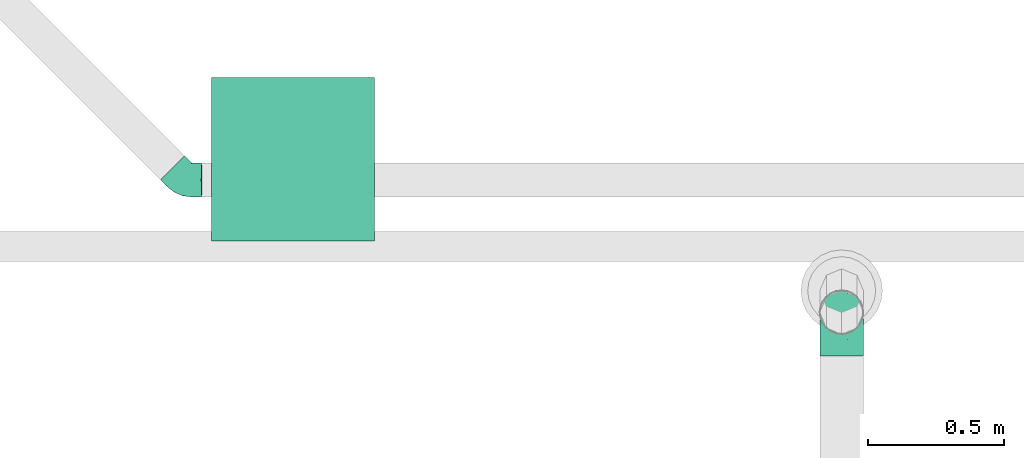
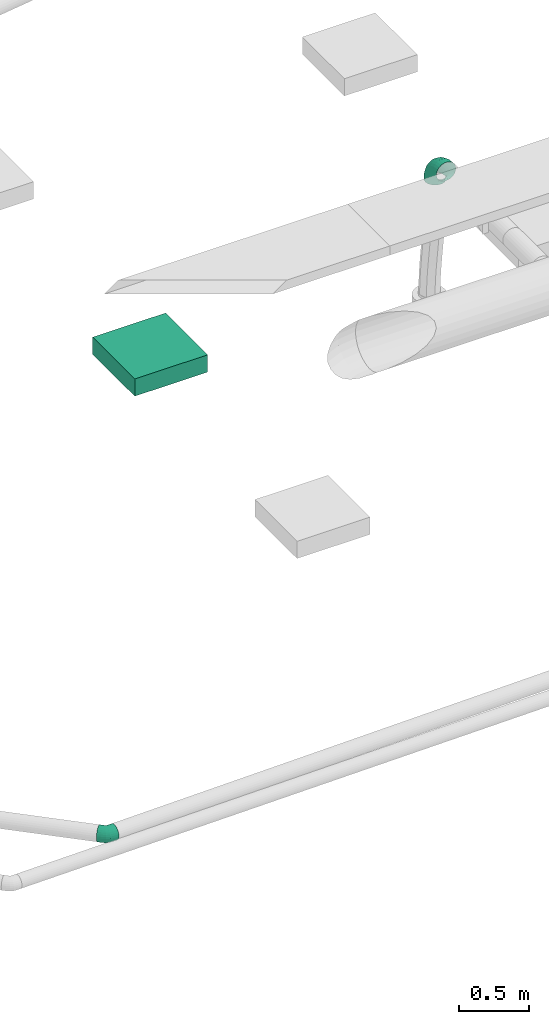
# One storey, part 149 of 374: 2 flow fittings, 1 distribution element.
"""IFC2X3 building model written with IfcOpenShell, lengths in metres."""

from ifc_helpers import new_model, si_unit, direction, frame, frame_2d, origin, place, context, subcontext, project, spatial, rectangle, extrude, open_shell, surface_model, source, transform, mapped, element, save


model = new_model("IFC2X3")

# Units and contexts
model_context = context("Model", 3, precision=1e-05, world=origin(), true_north=direction((-0.4480736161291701, 0.8939966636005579)))
body_context = subcontext(model_context, "Body", "Model", "MODEL_VIEW")
ifc_project = project(units=[si_unit("LENGTHUNIT", "METRE"), si_unit("AREAUNIT", "SQUARE_METRE"), si_unit("VOLUMEUNIT", "CUBIC_METRE"), si_unit("PLANEANGLEUNIT", "RADIAN"), si_unit("THERMODYNAMICTEMPERATUREUNIT", "KELVIN"), si_unit("MASSUNIT", "GRAM", prefix="KILO"), si_unit("TIMEUNIT", "SECOND")], contexts=[model_context])

# Site, building, storey
site_placement = place(None, origin())
site = spatial("IfcSite", under=ifc_project, at=site_placement, Name="Site 1", CompositionType="ELEMENT")
building_placement = place(site_placement, origin())
building = spatial("IfcBuilding", under=site, at=building_placement, Name="Undefined", CompositionType="ELEMENT")
storey_placement = place(building_placement, origin())
storey = spatial("IfcBuildingStorey", under=building, at=storey_placement, Name="Rez de chauss\x8ee", CompositionType="ELEMENT", Elevation=0.0)

# Flow fittings
shared_shape_1 = source(origin(), body_context, "Body", "SurfaceModel", [
    surface_model("IfcFaceBasedSurfaceModel", [(0.06265257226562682, -8.8817842e-16, 0.0), (0.062296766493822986, 0.02088115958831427, -7.105427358e-15), (0.0003558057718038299, 0.020881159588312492, 7.105427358e-15), (0.0, 0.0, 0.0), (-0.059474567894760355, 0.022956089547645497, -0.015896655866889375), (-0.06051773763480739, 0.002098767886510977, -0.01607928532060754), (-0.11311701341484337, 0.02696454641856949, -0.04660663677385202), (-0.11477645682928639, 0.006153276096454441, -0.04714207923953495), (-0.15691588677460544, 0.0326333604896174, -0.09003710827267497), (-0.15907851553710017, 0.01188721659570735, -0.09107150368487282), (-0.18788636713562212, 0.03957621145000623, -0.14322835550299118), (-0.1904048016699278, 0.01890983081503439, -0.14487384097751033), (-0.2039178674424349, 0.04731995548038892, -0.20255548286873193), (-0.20662048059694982, 0.026742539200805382, -0.20488255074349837), (0.061253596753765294, 0.04103889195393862, -0.0053597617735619), (0.0013989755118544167, 0.04103889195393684, -0.005359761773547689), (-0.05641614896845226, 0.04304393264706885, -0.02072097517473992), (-0.10825177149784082, 0.04691737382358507, -0.050396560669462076), (-0.15057538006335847, 0.05239524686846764, -0.09236417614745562), (-0.18050269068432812, 0.05910424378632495, -0.14376379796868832), (-0.19599420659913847, 0.06658715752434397, -0.20109262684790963), (0.05959415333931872, 0.05909948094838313, -0.01571402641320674), (0.003058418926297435, 0.05909948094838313, -0.01571402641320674), (-0.05155090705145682, 0.06099334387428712, -0.030223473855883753), (-0.10051228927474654, 0.06465200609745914, -0.058253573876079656), (-0.1404890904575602, 0.0698261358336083, -0.09789412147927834), (-0.16875695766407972, 0.0761631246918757, -0.14644367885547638), (-0.18338948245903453, 0.08323111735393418, -0.2005936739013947), (0.057431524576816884, 0.07383212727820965, -0.030357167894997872), (0.005221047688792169, 0.07383212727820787, -0.03035716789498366), (-0.0452104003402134, 0.07558110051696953, -0.04375657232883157), (-0.09042599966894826, 0.07895985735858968, -0.06964223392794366), (-0.12734438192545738, 0.08373814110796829, -0.10625008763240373), (-0.15344962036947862, 0.08959031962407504, -0.15108536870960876), (-0.16696268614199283, 0.0961175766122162, -0.20109262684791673), (0.054913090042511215, 0.0842328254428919, -0.048291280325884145), (0.007739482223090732, 0.08423282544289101, -0.04829128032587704), (-0.037826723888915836, 0.08581307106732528, -0.06039801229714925), (-0.07868026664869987, 0.08886587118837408, -0.08378642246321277), (-0.11203704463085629, 0.09318318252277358, -0.11686262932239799), (-0.13562384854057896, 0.09847078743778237, -0.1573725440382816), (-0.14783327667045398, 0.10436834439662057, -0.20255548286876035), (0.05221047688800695, 0.0895927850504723, -0.06829418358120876), (0.010442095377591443, 0.08959278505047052, -0.06829418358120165), (-0.029903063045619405, 0.09099196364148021, -0.07901370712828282), (-0.06607554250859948, 0.09369496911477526, -0.0997222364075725), (-0.0956102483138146, 0.0975175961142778, -0.12900851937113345), (-0.11649443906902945, 0.10219933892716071, -0.16487674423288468), (-0.12730489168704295, 0.1074211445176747, -0.2048825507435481), (0.04950786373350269, 0.08954673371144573, -0.08900271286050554), (0.013144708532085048, 0.08954673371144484, -0.08900271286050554), (-0.02197940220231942, 0.09076484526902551, -0.09833502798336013), (-0.05347081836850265, 0.09311805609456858, -0.11636367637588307), (-0.0791834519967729, 0.09644599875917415, -0.14186003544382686), (-0.09736502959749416, 0.10052187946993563, -0.17308657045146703), (-0.10677650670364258, 0.1050679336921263, -0.20791524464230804), (0.04698942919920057, 0.08409780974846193, -0.10900561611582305), (0.015663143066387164, 0.08409780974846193, -0.10900561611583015), (-0.014595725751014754, 0.08514719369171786, -0.11704525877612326), (-0.0417250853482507, 0.0871744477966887, -0.13257665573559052), (-0.06387611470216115, 0.09004141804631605, -0.15454136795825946), (-0.07953925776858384, 0.09355272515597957, -0.1814425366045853), (-0.08764709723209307, 0.09746907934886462, -0.21144689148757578), (0.04482680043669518, 0.0736173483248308, -0.12693972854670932), (0.017825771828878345, 0.0736173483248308, -0.12693972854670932), (-0.008255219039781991, 0.07452184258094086, -0.13386932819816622), (-0.03163879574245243, 0.0762691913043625, -0.14725628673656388), (-0.050731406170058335, 0.07874031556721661, -0.1661883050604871), (-0.06423192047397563, 0.08176681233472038, -0.18937519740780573), (-0.07122030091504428, 0.08514243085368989, -0.21523681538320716), (0.04316735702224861, 0.058819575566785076, -0.14158287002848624), (0.019485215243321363, 0.058819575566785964, -0.14158287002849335), (-0.0033899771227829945, 0.05961289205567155, -0.14766070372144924), (-0.02389931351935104, 0.06114546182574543, -0.15940217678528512), (-0.04064511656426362, 0.06331284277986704, -0.17600712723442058), (-0.052486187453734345, 0.06596733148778, -0.19634395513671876), (-0.05861557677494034, 0.06892802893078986, -0.2190267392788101), (0.04212418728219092, 0.040712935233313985, -0.15193713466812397), (0.020528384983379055, 0.040712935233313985, -0.15193713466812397), (-0.0003315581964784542, 0.041436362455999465, -0.15747952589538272), (-0.019034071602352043, 0.04283391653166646, -0.16818660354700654), (-0.03430460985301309, 0.04481035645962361, -0.1833286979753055), (-0.04510251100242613, 0.047230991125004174, -0.20187390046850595), (-0.05069191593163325, 0.04993085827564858, -0.22255838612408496), (0.04176838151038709, 0.02053136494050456, -0.15729689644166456), (0.020884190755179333, 0.02053136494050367, -0.15729689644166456), (0.0007116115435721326, 0.021230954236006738, -0.16265665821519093), (-0.017374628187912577, 0.022582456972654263, -0.17301092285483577), (-0.03214198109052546, 0.024493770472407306, -0.1876540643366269), (-0.042584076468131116, 0.026834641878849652, -0.20558817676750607), (-0.04798930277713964, 0.02944554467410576, -0.22559108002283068), (0.04212418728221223, -0.000349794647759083, -0.15729689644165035), (0.020528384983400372, -0.000349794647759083, -0.15729689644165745), (-0.0003315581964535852, 0.00037363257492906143, -0.1628392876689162), (-0.019034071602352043, 0.0017711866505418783, -0.17354636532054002), (-0.03430460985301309, 0.0037476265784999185, -0.18868845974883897), (-0.04510251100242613, 0.00616826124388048, -0.20723366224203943), (-0.05069191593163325, 0.008868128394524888, -0.22791814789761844), (0.04316735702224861, -0.020507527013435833, -0.15193713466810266), (0.019485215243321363, -0.020507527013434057, -0.15193713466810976), (-0.0033899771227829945, -0.019714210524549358, -0.15801496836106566), (-0.02389931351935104, -0.01818164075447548, -0.16975644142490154), (-0.04064511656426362, -0.01601425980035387, -0.186361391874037), (-0.052486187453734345, -0.013359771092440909, -0.20669821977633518), (-0.05861557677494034, -0.010399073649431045, -0.22938100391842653), (0.04482680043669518, -0.03856811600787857, -0.1415828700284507), (0.017825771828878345, -0.03856811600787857, -0.1415828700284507), (-0.008255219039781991, -0.03766362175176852, -0.1485124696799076), (-0.03163879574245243, -0.03591627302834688, -0.16189942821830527), (-0.050731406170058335, -0.03344514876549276, -0.1808314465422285), (-0.06423192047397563, -0.030418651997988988, -0.20401833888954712), (-0.07122030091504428, -0.027043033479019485, -0.22987995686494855), (0.04698942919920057, -0.05330076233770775, -0.12693972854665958), (0.015663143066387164, -0.05330076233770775, -0.12693972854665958), (-0.014595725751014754, -0.05225137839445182, -0.1349793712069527), (-0.0417250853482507, -0.05022412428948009, -0.15051076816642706), (-0.06387611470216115, -0.047357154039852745, -0.172475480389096), (-0.07953925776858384, -0.043845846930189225, -0.19937664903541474), (-0.08764709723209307, -0.03992949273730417, -0.2293810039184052), (0.04950786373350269, -0.06370146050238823, -0.10900561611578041), (0.013144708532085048, -0.06370146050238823, -0.10900561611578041), (-0.02197940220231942, -0.06248334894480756, -0.11833793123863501), (-0.05347081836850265, -0.06013013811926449, -0.13636657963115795), (-0.0791834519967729, -0.05680219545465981, -0.16186293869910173), (-0.09736502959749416, -0.05272631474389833, -0.1930894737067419), (-0.10677650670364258, -0.04818026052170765, -0.2279181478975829), (0.05221047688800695, -0.06906142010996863, -0.08900271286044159), (0.010442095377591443, -0.06906142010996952, -0.08900271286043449), (-0.029903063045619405, -0.06766224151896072, -0.09972223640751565), (-0.06607554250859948, -0.06495923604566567, -0.12043076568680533), (-0.0956102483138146, -0.06113660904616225, -0.14971704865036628), (-0.11649443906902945, -0.05645486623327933, -0.1855852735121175), (-0.12730489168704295, -0.05123306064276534, -0.22559108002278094), (0.054913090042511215, -0.06901536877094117, -0.06829418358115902), (0.007739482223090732, -0.06901536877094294, -0.06829418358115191), (-0.037826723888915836, -0.06743512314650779, -0.08040091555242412), (-0.07868026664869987, -0.06438232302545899, -0.10378932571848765), (-0.11203704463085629, -0.06006501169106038, -0.13686553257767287), (-0.13562384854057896, -0.0547774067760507, -0.17737544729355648), (-0.14783327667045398, -0.04887984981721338, -0.22255838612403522), (0.057431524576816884, -0.06356644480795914, -0.0482912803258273), (0.005221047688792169, -0.06356644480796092, -0.04829128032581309), (-0.0452104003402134, -0.061817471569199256, -0.0616906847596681), (-0.09042599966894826, -0.05843871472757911, -0.0875763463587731), (-0.12734438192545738, -0.05366043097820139, -0.12418420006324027), (-0.15344962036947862, -0.04780825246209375, -0.1690194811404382), (-0.16696268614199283, -0.041280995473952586, -0.21902673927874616), (0.05959415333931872, -0.05308598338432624, -0.030357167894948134), (0.003058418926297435, -0.05308598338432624, -0.030357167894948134), (-0.05155090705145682, -0.05119212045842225, -0.04486661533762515), (-0.10051228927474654, -0.04753345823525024, -0.07289671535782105), (-0.1404890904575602, -0.04235932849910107, -0.11253726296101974), (-0.16875695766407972, -0.03602233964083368, -0.16108682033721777), (-0.18338948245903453, -0.02895434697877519, -0.2152368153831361), (0.061253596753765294, -0.03828821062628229, -0.015714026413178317), (0.0013989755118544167, -0.03828821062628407, -0.015714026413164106), (-0.05641614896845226, -0.03628316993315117, -0.031075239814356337), (-0.10825177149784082, -0.03240972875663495, -0.06075082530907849), (-0.15057538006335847, -0.026931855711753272, -0.10271844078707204), (-0.18050269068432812, -0.02022285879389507, -0.15411806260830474), (-0.19599420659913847, -0.012739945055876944, -0.21144689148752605), (0.062296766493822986, -0.020181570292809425, -0.005359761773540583), (0.0003558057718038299, -0.020181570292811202, -0.0053597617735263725), (-0.059474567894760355, -0.018106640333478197, -0.021256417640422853), (-0.11311701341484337, -0.014098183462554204, -0.051966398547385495), (-0.15691588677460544, -0.00842936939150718, -0.09539687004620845), (-0.18788636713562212, -0.0014865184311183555, -0.14858811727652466), (-0.2039178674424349, 0.006257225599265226, -0.2079152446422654)], [open_shell([[[0, 1, 2, 3]], [[3, 2, 4, 5]], [[5, 4, 6, 7]], [[7, 6, 8, 9]], [[9, 8, 10, 11]], [[11, 10, 12, 13]], [[1, 14, 15, 2]], [[2, 15, 16, 4]], [[4, 16, 17, 6]], [[6, 17, 18, 8]], [[8, 18, 19, 10]], [[10, 19, 20, 12]], [[14, 21, 22, 15]], [[15, 22, 23, 16]], [[16, 23, 24, 17]], [[17, 24, 25, 18]], [[18, 25, 26, 19]], [[19, 26, 27, 20]], [[21, 28, 29, 22]], [[22, 29, 30, 23]], [[23, 30, 31, 24]], [[24, 31, 32, 25]], [[25, 32, 33, 26]], [[26, 33, 34, 27]], [[28, 35, 36, 29]], [[29, 36, 37, 30]], [[30, 37, 38, 31]], [[31, 38, 39, 32]], [[32, 39, 40, 33]], [[33, 40, 41, 34]], [[35, 42, 43, 36]], [[36, 43, 44, 37]], [[37, 44, 45, 38]], [[38, 45, 46, 39]], [[39, 46, 47, 40]], [[40, 47, 48, 41]], [[42, 49, 50, 43]], [[43, 50, 51, 44]], [[44, 51, 52, 45]], [[45, 52, 53, 46]], [[46, 53, 54, 47]], [[47, 54, 55, 48]], [[49, 56, 57, 50]], [[50, 57, 58, 51]], [[51, 58, 59, 52]], [[52, 59, 60, 53]], [[53, 60, 61, 54]], [[54, 61, 62, 55]], [[56, 63, 64, 57]], [[57, 64, 65, 58]], [[58, 65, 66, 59]], [[59, 66, 67, 60]], [[60, 67, 68, 61]], [[61, 68, 69, 62]], [[63, 70, 71, 64]], [[64, 71, 72, 65]], [[65, 72, 73, 66]], [[66, 73, 74, 67]], [[67, 74, 75, 68]], [[68, 75, 76, 69]], [[70, 77, 78, 71]], [[71, 78, 79, 72]], [[72, 79, 80, 73]], [[73, 80, 81, 74]], [[74, 81, 82, 75]], [[75, 82, 83, 76]], [[77, 84, 85, 78]], [[78, 85, 86, 79]], [[79, 86, 87, 80]], [[80, 87, 88, 81]], [[81, 88, 89, 82]], [[82, 89, 90, 83]], [[84, 91, 92, 85]], [[85, 92, 93, 86]], [[86, 93, 94, 87]], [[87, 94, 95, 88]], [[88, 95, 96, 89]], [[89, 96, 97, 90]], [[91, 98, 99, 92]], [[92, 99, 100, 93]], [[93, 100, 101, 94]], [[94, 101, 102, 95]], [[95, 102, 103, 96]], [[96, 103, 104, 97]], [[98, 105, 106, 99]], [[99, 106, 107, 100]], [[100, 107, 108, 101]], [[101, 108, 109, 102]], [[102, 109, 110, 103]], [[103, 110, 111, 104]], [[105, 112, 113, 106]], [[106, 113, 114, 107]], [[107, 114, 115, 108]], [[108, 115, 116, 109]], [[109, 116, 117, 110]], [[110, 117, 118, 111]], [[112, 119, 120, 113]], [[113, 120, 121, 114]], [[114, 121, 122, 115]], [[115, 122, 123, 116]], [[116, 123, 124, 117]], [[117, 124, 125, 118]], [[119, 126, 127, 120]], [[120, 127, 128, 121]], [[121, 128, 129, 122]], [[122, 129, 130, 123]], [[123, 130, 131, 124]], [[124, 131, 132, 125]], [[126, 133, 134, 127]], [[127, 134, 135, 128]], [[128, 135, 136, 129]], [[129, 136, 137, 130]], [[130, 137, 138, 131]], [[131, 138, 139, 132]], [[133, 140, 141, 134]], [[134, 141, 142, 135]], [[135, 142, 143, 136]], [[136, 143, 144, 137]], [[137, 144, 145, 138]], [[138, 145, 146, 139]], [[140, 147, 148, 141]], [[141, 148, 149, 142]], [[142, 149, 150, 143]], [[143, 150, 151, 144]], [[144, 151, 152, 145]], [[145, 152, 153, 146]], [[147, 154, 155, 148]], [[148, 155, 156, 149]], [[149, 156, 157, 150]], [[150, 157, 158, 151]], [[151, 158, 159, 152]], [[152, 159, 160, 153]], [[154, 161, 162, 155]], [[155, 162, 163, 156]], [[156, 163, 164, 157]], [[157, 164, 165, 158]], [[158, 165, 166, 159]], [[159, 166, 167, 160]], [[161, 0, 3, 162]], [[162, 3, 5, 163]], [[163, 5, 7, 164]], [[164, 7, 9, 165]], [[165, 9, 11, 166]], [[166, 11, 13, 167]]])]),
])
flow_fitting_1_placement = place(storey_placement, origin())
element("IfcFlowFitting", 1, at=flow_fitting_1_placement, inside=storey, Name="Coude", ObjectType="Coude", context=body_context, shape_type="MappedRepresentation", body=[
    mapped(shared_shape_1, transform((44.292700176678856, 16.946057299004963, 3.7021165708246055), x_axis=(0.0, 0.13052619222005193, -0.9914448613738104), y_axis=(-0.9915887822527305, -0.12832103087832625, -0.016893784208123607), z_axis=(-0.12942830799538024, 0.9831056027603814, 0.12942830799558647))),
])
shared_shape_2 = source(origin(), body_context, "Body", "SurfaceModel", [
    surface_model("IfcFaceBasedSurfaceModel", [(0.0, 0.0163157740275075, 0.0), (0.0, 0.0, 0.0), (0.03640000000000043, 0.0, 0.0), (0.03640000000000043, 0.01631577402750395, -8.8817842e-16), (0.0, -0.015759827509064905, -0.004222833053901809), (0.03640000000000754, -0.01575982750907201, -0.00422283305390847), (0.0, -0.029889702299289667, -0.012380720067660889), (0.03640000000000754, -0.02988970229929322, -0.012380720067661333), (0.0, -0.04142669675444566, -0.02391771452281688), (0.03640000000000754, -0.04142669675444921, -0.023917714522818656), (0.0, -0.04958458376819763, -0.038047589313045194), (0.03640000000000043, -0.04958458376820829, -0.038047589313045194), (0.0, -0.053807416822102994, -0.053807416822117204), (0.03640000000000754, -0.053807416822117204, -0.05380741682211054), (0.0, -0.053807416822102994, -0.07012319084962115), (0.03639999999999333, -0.053807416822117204, -0.07012319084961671), (0.0, -0.04958458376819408, -0.08588301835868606), (0.03640000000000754, -0.04958458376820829, -0.08588301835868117), (0.0, -0.04142669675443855, -0.10001289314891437), (0.03640000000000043, -0.041426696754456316, -0.1000128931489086), (0.0, -0.02988970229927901, -0.11154988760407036), (0.03640000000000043, -0.02988970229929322, -0.11154988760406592), (0.0, -0.015759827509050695, -0.11970777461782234), (0.03640000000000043, -0.015759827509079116, -0.11970777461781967), (0.0, 1.4210854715e-14, -0.12393060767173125), (0.03640000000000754, -1.4210854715e-14, -0.12393060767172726), (0.0, 0.016315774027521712, -0.12393060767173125), (0.03640000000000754, 0.01631577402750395, -0.12393060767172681), (0.0, 0.03207560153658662, -0.11970777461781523), (0.03640000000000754, 0.032075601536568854, -0.11970777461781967), (0.0, 0.04620547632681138, -0.11154988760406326), (0.03640000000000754, 0.04620547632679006, -0.11154988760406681), (0.0, 0.05774247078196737, -0.10001289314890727), (0.03640000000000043, 0.05774247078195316, -0.10001289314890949), (0.0, 0.06590035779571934, -0.08588301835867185), (0.03640000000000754, 0.06590035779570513, -0.08588301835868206), (0.0, 0.0701231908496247, -0.07012319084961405), (0.03640000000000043, 0.07012319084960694, -0.07012319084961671), (0.0, 0.0701231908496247, -0.05380741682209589), (0.03640000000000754, 0.07012319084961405, -0.05380741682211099), (0.0, 0.06590035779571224, -0.03804758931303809), (0.03640000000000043, 0.06590035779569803, -0.03804758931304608), (0.0, 0.05774247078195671, -0.023917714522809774), (0.03640000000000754, 0.057742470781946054, -0.0239177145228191), (0.0, 0.04620547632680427, -0.012380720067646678), (0.03640000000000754, 0.04620547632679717, -0.012380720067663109), (0.0, 0.03207560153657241, -0.004222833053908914), (0.03640000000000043, 0.032075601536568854, -0.00422283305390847), (0.06832402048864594, -0.04964138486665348, -0.07067165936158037), (0.06887509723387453, -0.04956947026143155, -0.054365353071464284), (0.09807338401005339, -0.037427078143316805, -0.0722797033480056), (0.09913799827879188, -0.037144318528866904, -0.056001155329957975), (0.12362157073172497, -0.0179965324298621, -0.07483778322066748), (0.12512720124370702, -0.017378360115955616, -0.05860339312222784), (0.06670834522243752, -0.04562939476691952, -0.08640372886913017), (0.09495209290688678, -0.034033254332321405, -0.08793038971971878), (0.11920728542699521, -0.01558608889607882, -0.09035900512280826), (0.06413817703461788, -0.037806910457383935, -0.100489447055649), (0.08998683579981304, -0.027194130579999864, -0.10188664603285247), (0.11218517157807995, -0.010311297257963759, -0.10410931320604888), (0.060788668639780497, -0.026707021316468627, -0.11196889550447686), (0.08351598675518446, -0.01737578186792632, -0.11319737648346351), (0.10303377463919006, -0.0025316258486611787, -0.11515164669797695), (0.05688808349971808, -0.013086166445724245, -0.12005976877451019), (0.07598052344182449, -0.00524731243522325, -0.1210917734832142), (0.09237674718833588, 0.00722275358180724, -0.1227334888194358), (0.05270224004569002, 0.0021274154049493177, -0.12421068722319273), (0.06789397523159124, 0.008364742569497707, -0.12503184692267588), (0.08094034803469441, 0.018287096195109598, -0.1263381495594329), (0.04851639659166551, 0.017896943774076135, -0.1241387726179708), (0.05980742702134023, 0.02253274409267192, -0.12474908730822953), (0.06950394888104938, 0.029907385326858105, -0.12571997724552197), (0.044615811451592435, 0.03314775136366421, -0.11984892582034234), (0.05227196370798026, 0.036291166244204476, -0.12026276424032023), (0.058846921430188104, 0.04129171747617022, -0.12092109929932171), (0.04126630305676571, 0.04684052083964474, -0.11163349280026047), (0.045801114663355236, 0.04870239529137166, -0.11187861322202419), (0.04969552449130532, 0.05166426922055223, -0.11226855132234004), (0.038696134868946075, 0.05804211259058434, -0.10005234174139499), (0.040835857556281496, 0.058920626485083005, -0.10016800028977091), (0.04267341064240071, 0.060318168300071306, -0.10035199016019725), (0.0370804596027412, 0.06598915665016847, -0.08589470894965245), (0.03771456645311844, 0.06624950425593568, -0.08592898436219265), (0.038259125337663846, 0.06666366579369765, -0.08598350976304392), (0.03652938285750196, 0.07014007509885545, -0.07012541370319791), (0.03664995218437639, 0.07018957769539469, -0.07013193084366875), (0.0367534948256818, 0.07026832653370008, -0.07014229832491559), (0.037080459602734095, 0.07021198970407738, -0.053819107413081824), (0.03771456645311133, 0.07047233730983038, -0.053853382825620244), (0.038259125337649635, 0.07088649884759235, -0.05390790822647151), (0.038696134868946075, 0.06619999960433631, -0.03808703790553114), (0.040835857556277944, 0.06707851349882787, -0.03820269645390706), (0.04267341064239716, 0.06847605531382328, -0.038386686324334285), (0.04126630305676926, 0.05837751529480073, -0.024001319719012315), (0.04580111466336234, 0.060239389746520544, -0.024246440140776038), (0.04969552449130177, 0.06320126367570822, -0.024636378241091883), (0.04461581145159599, 0.04727762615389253, -0.012521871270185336), (0.05227196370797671, 0.050421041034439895, -0.012935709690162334), (0.058846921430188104, 0.055421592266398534, -0.013594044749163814), (0.04851639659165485, 0.03365677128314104, -0.004430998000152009), (0.05980742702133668, 0.038292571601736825, -0.005041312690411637), (0.06950394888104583, 0.045667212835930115, -0.006012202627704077), (0.05270224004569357, 0.018443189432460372, -0.00028007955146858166), (0.06789397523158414, 0.02468051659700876, -0.0011012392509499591), (0.0809403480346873, 0.03460287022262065, -0.0024075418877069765), (0.056888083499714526, 0.00267366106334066, -0.00035199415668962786), (0.07598052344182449, 0.01051251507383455, -0.0013839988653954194), (0.09237674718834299, 0.02298258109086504, -0.0030257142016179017), (0.06078866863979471, -0.012577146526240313, -0.004641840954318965), (0.08351598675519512, -0.003245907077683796, -0.005870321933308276), (0.10303377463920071, 0.01159824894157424, -0.00782459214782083), (0.06413817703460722, -0.02626991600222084, -0.01285727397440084), (0.08998683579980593, -0.015657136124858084, -0.014254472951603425), (0.1121851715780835, 0.0012256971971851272, -0.01647714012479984), (0.06670834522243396, -0.03747150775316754, -0.02443842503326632), (0.09495209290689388, -0.02587536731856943, -0.025965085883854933), (0.11920728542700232, -0.007428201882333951, -0.028393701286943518), (0.06832402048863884, -0.04541855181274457, -0.03859605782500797), (0.09807338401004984, -0.0332042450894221, -0.0402041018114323), (0.12362157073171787, -0.013773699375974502, -0.04276218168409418), (0.14936452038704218, 0.007517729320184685, -0.07819679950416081), (0.15087015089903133, 0.00813590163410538, -0.06196240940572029), (0.14495023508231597, 0.009928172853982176, -0.09371802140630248), (0.1379281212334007, 0.015202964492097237, -0.1074683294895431), (0.12877672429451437, 0.022982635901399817, -0.11851066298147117), (0.11811969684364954, 0.03273701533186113, -0.12609250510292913), (0.10668329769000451, 0.043801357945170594, -0.12969716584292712), (0.09524689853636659, 0.055421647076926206, -0.12907899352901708), (0.0845898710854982, 0.06680597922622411, -0.12428011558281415), (0.07543847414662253, 0.07717853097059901, -0.1156275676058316), (0.06841636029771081, 0.0858324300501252, -0.10371100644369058), (0.06400207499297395, 0.09217792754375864, -0.08934252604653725), (0.06249644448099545, 0.09578258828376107, -0.07350131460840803), (0.0640020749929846, 0.09640076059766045, -0.05726692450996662), (0.06841636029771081, 0.09399031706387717, -0.04174570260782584), (0.07543847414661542, 0.08871552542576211, -0.027995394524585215), (0.0845898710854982, 0.08093585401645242, -0.016953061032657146), (0.09524689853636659, 0.07118147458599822, -0.009371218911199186), (0.10668329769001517, 0.06011713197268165, -0.005766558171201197), (0.11811969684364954, 0.048496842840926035, -0.006384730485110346), (0.12877672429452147, 0.03711251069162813, -0.011183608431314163), (0.13792812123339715, 0.02673995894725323, -0.019836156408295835), (0.14495023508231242, 0.01808605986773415, -0.03175271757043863), (0.14936452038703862, 0.011740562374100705, -0.04612119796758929)], [open_shell([[[0, 1, 2, 3]], [[1, 4, 5, 2]], [[4, 6, 7, 5]], [[6, 8, 9, 7]], [[8, 10, 11, 9]], [[10, 12, 13, 11]], [[12, 14, 15, 13]], [[14, 16, 17, 15]], [[16, 18, 19, 17]], [[18, 20, 21, 19]], [[20, 22, 23, 21]], [[22, 24, 25, 23]], [[24, 26, 27, 25]], [[26, 28, 29, 27]], [[28, 30, 31, 29]], [[30, 32, 33, 31]], [[32, 34, 35, 33]], [[34, 36, 37, 35]], [[36, 38, 39, 37]], [[38, 40, 41, 39]], [[40, 42, 43, 41]], [[42, 44, 45, 43]], [[44, 46, 47, 45]], [[46, 0, 3, 47]], [[13, 15, 48, 49]], [[49, 48, 50, 51]], [[51, 50, 52, 53]], [[15, 17, 54, 48]], [[48, 54, 55, 50]], [[50, 55, 56, 52]], [[17, 19, 57, 54]], [[54, 57, 58, 55]], [[55, 58, 59, 56]], [[19, 21, 60, 57]], [[57, 60, 61, 58]], [[58, 61, 62, 59]], [[21, 23, 63, 60]], [[60, 63, 64, 61]], [[61, 64, 65, 62]], [[23, 25, 66, 63]], [[63, 66, 67, 64]], [[64, 67, 68, 65]], [[25, 27, 69, 66]], [[66, 69, 70, 67]], [[67, 70, 71, 68]], [[27, 29, 72, 69]], [[69, 72, 73, 70]], [[70, 73, 74, 71]], [[29, 31, 75, 72]], [[72, 75, 76, 73]], [[73, 76, 77, 74]], [[31, 33, 78, 75]], [[75, 78, 79, 76]], [[76, 79, 80, 77]], [[33, 35, 81, 78]], [[78, 81, 82, 79]], [[79, 82, 83, 80]], [[35, 37, 84, 81]], [[81, 84, 85, 82]], [[82, 85, 86, 83]], [[37, 39, 87, 84]], [[84, 87, 88, 85]], [[85, 88, 89, 86]], [[39, 41, 90, 87]], [[87, 90, 91, 88]], [[88, 91, 92, 89]], [[41, 43, 93, 90]], [[90, 93, 94, 91]], [[91, 94, 95, 92]], [[43, 45, 96, 93]], [[93, 96, 97, 94]], [[94, 97, 98, 95]], [[45, 47, 99, 96]], [[96, 99, 100, 97]], [[97, 100, 101, 98]], [[47, 3, 102, 99]], [[99, 102, 103, 100]], [[100, 103, 104, 101]], [[3, 2, 105, 102]], [[102, 105, 106, 103]], [[103, 106, 107, 104]], [[2, 5, 108, 105]], [[105, 108, 109, 106]], [[106, 109, 110, 107]], [[5, 7, 111, 108]], [[108, 111, 112, 109]], [[109, 112, 113, 110]], [[7, 9, 114, 111]], [[111, 114, 115, 112]], [[112, 115, 116, 113]], [[9, 11, 117, 114]], [[114, 117, 118, 115]], [[115, 118, 119, 116]], [[11, 13, 49, 117]], [[117, 49, 51, 118]], [[118, 51, 53, 119]], [[53, 52, 120, 121]], [[52, 56, 122, 120]], [[56, 59, 123, 122]], [[59, 62, 124, 123]], [[62, 65, 125, 124]], [[65, 68, 126, 125]], [[68, 71, 127, 126]], [[71, 74, 128, 127]], [[74, 77, 129, 128]], [[77, 80, 130, 129]], [[80, 83, 131, 130]], [[83, 86, 132, 131]], [[86, 89, 133, 132]], [[89, 92, 134, 133]], [[92, 95, 135, 134]], [[95, 98, 136, 135]], [[98, 101, 137, 136]], [[101, 104, 138, 137]], [[104, 107, 139, 138]], [[107, 110, 140, 139]], [[110, 113, 141, 140]], [[113, 116, 142, 141]], [[116, 119, 143, 142]], [[119, 53, 121, 143]]])]),
])
flow_fitting_2_placement = place(storey_placement, origin())
element("IfcFlowFitting", 2, at=flow_fitting_2_placement, inside=storey, Name="PE-HD coude 45°", ObjectType="PE-HD coude 45°", context=body_context, shape_type="MappedRepresentation", body=[
    mapped(shared_shape_2, transform((41.81930224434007, 17.394461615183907, -1.45481017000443), x_axis=(0.7069654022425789, -0.706965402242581, 0.01999600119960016), y_axis=(0.6983073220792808, 0.7022305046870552, 0.1387054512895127), z_axis=(-0.11210175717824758, -0.08409660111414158, 0.9901317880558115))),
])

# Distribution element
distribution_element_placement = place(storey_placement, origin())
element("IfcDistributionElement", 3, at=distribution_element_placement, inside=storey, Name="Decken-Rechteckleuchte mit Rahmen AP", ObjectType="Decken-Rechteckleuchte mit Rahmen AP", context=body_context, shape_type="SweptSolid", body=[
    extrude(rectangle(XDim=0.6000000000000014, YDim=0.6000000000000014, at=frame_2d((3.552713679e-15, 0.0), x_axis=(0.0, 1.0))), frame((42.2742365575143, 17.437499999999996, 2.5500000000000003), z_axis=(0.0, 0.0, -1.0), x_axis=(1.0, 0.0, 0.0)), (0.0, 0.0, 1.0), 0.15),
])

save(model, "model.ifc")
